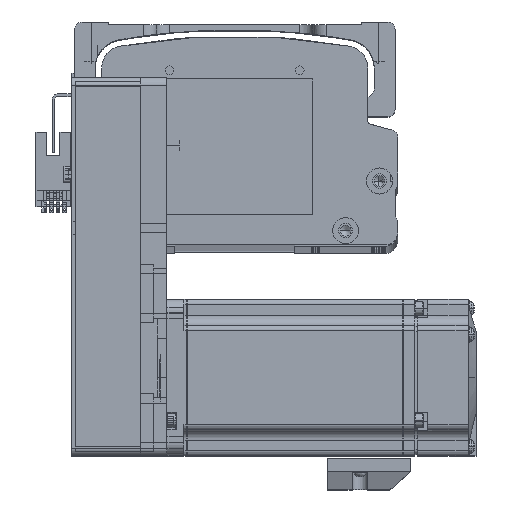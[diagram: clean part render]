
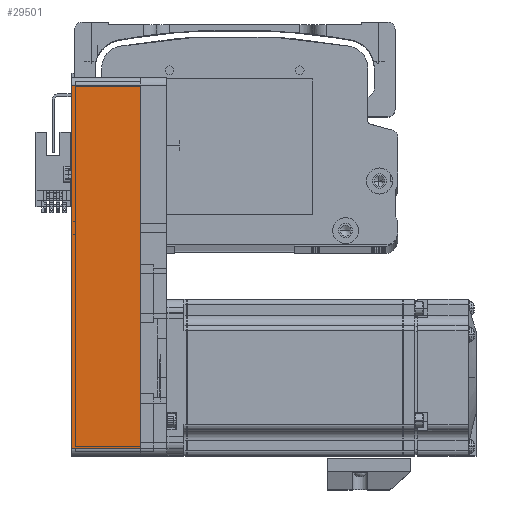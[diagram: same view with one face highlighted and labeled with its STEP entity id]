
A CAD part, top view. The second image highlights one B-rep face of the part: STEP entity #29501.
In plain terms, the highlighted planar face has unit normal (0, 0, 1) as drawn and (0, 1, 0) by its records, which use the part's own axes.
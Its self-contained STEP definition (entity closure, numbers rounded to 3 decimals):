
#415 = EDGE_CURVE ( 'NONE', #59821, #41861, #9037, .T. ) ;
#1163 = CARTESIAN_POINT ( 'NONE',  ( 69.5, 30., 26.5 ) ) ;
#1207 = PLANE ( 'NONE',  #58169 ) ;
#1858 = VECTOR ( 'NONE', #16397, 1000. ) ;
#4959 = ORIENTED_EDGE ( 'NONE', *, *, #20605, .T. ) ;
#8917 = CARTESIAN_POINT ( 'NONE',  ( -69.5, 30., 26.5 ) ) ;
#9037 = LINE ( 'NONE', #87961, #79218 ) ;
#9647 = CARTESIAN_POINT ( 'NONE',  ( 72.5, 30., 26.5 ) ) ;
#13348 = DIRECTION ( 'NONE',  ( -1., 0., 0. ) ) ;
#14956 = VECTOR ( 'NONE', #56465, 1000. ) ;
#15164 = DIRECTION ( 'NONE',  ( 0., -1., 0. ) ) ;
#16397 = DIRECTION ( 'NONE',  ( -1., 0., 0. ) ) ;
#20605 = EDGE_CURVE ( 'NONE', #41861, #44065, #32933, .T. ) ;
#25842 = DIRECTION ( 'NONE',  ( 0., 0., -1. ) ) ;
#29501 = ADVANCED_FACE ( 'NONE', ( #46785 ), #1207, .F. ) ;
#30607 = EDGE_CURVE ( 'NONE', #78214, #44065, #74202, .T. ) ;
#32933 = LINE ( 'NONE', #8917, #14956 ) ;
#34539 = ORIENTED_EDGE ( 'NONE', *, *, #30607, .F. ) ;
#40031 = CARTESIAN_POINT ( 'NONE',  ( -69.5, 30., 26.5 ) ) ;
#41861 = VERTEX_POINT ( 'NONE', #68070 ) ;
#43605 = LINE ( 'NONE', #60116, #59586 ) ;
#44065 = VERTEX_POINT ( 'NONE', #40031 ) ;
#45155 = ORIENTED_EDGE ( 'NONE', *, *, #86216, .T. ) ;
#46785 = FACE_OUTER_BOUND ( 'NONE', #57545, .T. ) ;
#55868 = CARTESIAN_POINT ( 'NONE',  ( 72.5, 30., 26.5 ) ) ;
#56465 = DIRECTION ( 'NONE',  ( 0., 0., 1. ) ) ;
#57545 = EDGE_LOOP ( 'NONE', ( #83290, #4959, #34539, #45155 ) ) ;
#58169 = AXIS2_PLACEMENT_3D ( 'NONE', #55868, #15164, #62750 ) ;
#58234 = CARTESIAN_POINT ( 'NONE',  ( 69.5, 30., 0. ) ) ;
#59586 = VECTOR ( 'NONE', #25842, 1000. ) ;
#59821 = VERTEX_POINT ( 'NONE', #58234 ) ;
#60116 = CARTESIAN_POINT ( 'NONE',  ( 69.5, 30., 26.5 ) ) ;
#62750 = DIRECTION ( 'NONE',  ( 1., 0., 0. ) ) ;
#68070 = CARTESIAN_POINT ( 'NONE',  ( -69.5, 30., 0. ) ) ;
#74202 = LINE ( 'NONE', #9647, #1858 ) ;
#78214 = VERTEX_POINT ( 'NONE', #1163 ) ;
#79218 = VECTOR ( 'NONE', #13348, 1000. ) ;
#83290 = ORIENTED_EDGE ( 'NONE', *, *, #415, .T. ) ;
#86216 = EDGE_CURVE ( 'NONE', #78214, #59821, #43605, .T. ) ;
#87961 = CARTESIAN_POINT ( 'NONE',  ( 72.5, 30., 0. ) ) ;
